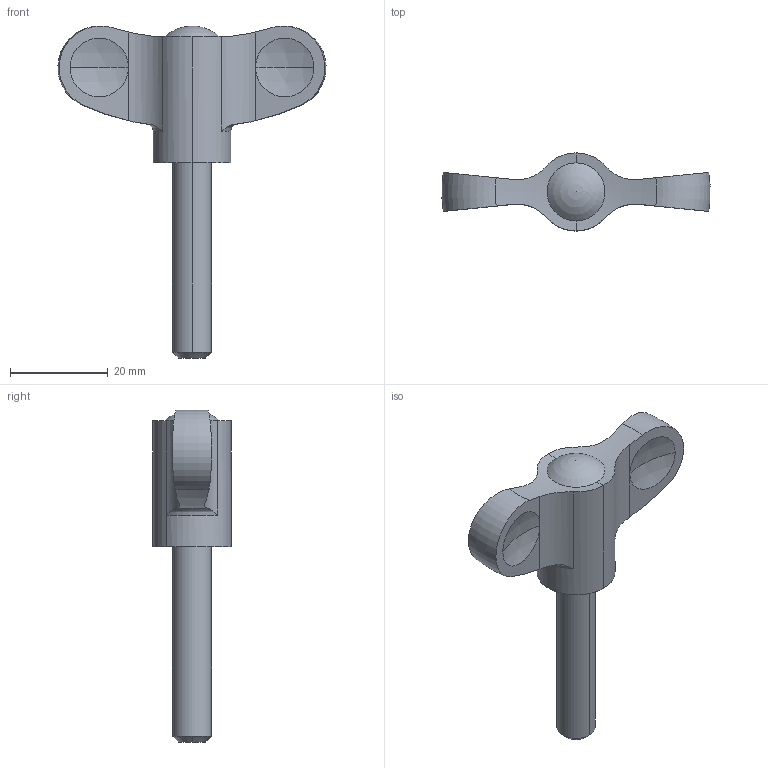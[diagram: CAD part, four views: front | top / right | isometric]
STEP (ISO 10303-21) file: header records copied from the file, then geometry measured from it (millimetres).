
FILE_DESCRIPTION (( 'STEP AP203' ), '1' );
FILE_NAME ('ewn55x40-lb.STEP', '2021-10-25T02:22:38', ( '' ), ( '' ), 'SwSTEP 2.0', 'SolidWorks 2020', '' );
FILE_SCHEMA (( 'CONFIG_CONTROL_DESIGN' ));
Length unit declared in the file: millimetre
Products named in the file (1): ewn55x40-lb
Bounding box: 54.91 x 16 x 68.02 mm (x, y, z)
Volume: 11006.6 mm3; surface area: 4398.4 mm2
Topology: 1 solids, 1 shells, 36 faces, 101 edges, 69 vertices
Faces by surface type: cylinder 11, sphere 9, torus 8, plane 6, cone 2
Entity records: 1546 total; most frequent: CARTESIAN_POINT 568, ORIENTED_EDGE 196, DIRECTION 185, EDGE_CURVE 98, AXIS2_PLACEMENT_3D 82, VERTEX_POINT 67, CIRCLE 45, EDGE_LOOP 39
